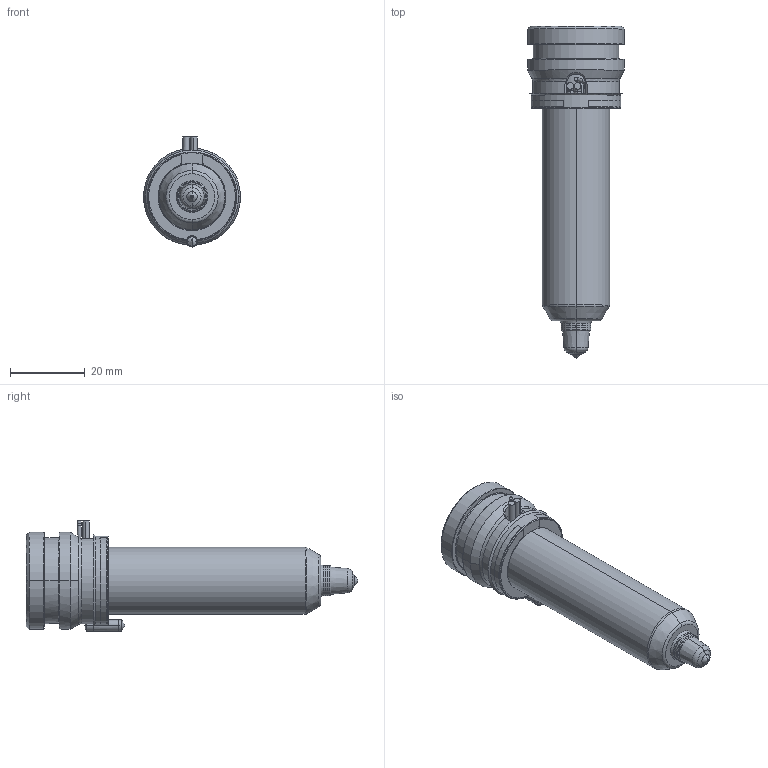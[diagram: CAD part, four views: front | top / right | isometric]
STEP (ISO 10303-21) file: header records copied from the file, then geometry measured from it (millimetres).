
FILE_DESCRIPTION((''),'2;1');
FILE_NAME('TH18071-A-1B50-PK-JG','2023-12-14T',('umhib'),('Thermoplay S.p.A.'),'PRO/ENGINEER BY PARAMETRIC TECHNOLOGY CORPORATION, 2017170','PRO/ENGINEER BY PARAMETRIC TECHNOLOGY CORPORATION, 2017170','');
FILE_SCHEMA(('CONFIG_CONTROL_DESIGN'));
Length unit declared in the file: millimetre
Products named in the file (1): TH18071-A-1B50-PK-JG
Bounding box: 26 x 89 x 29.5 mm (x, y, z)
Volume: 18747 mm3; surface area: 13764.2 mm2
Topology: 1 solids, 2 shells, 394 faces, 1026 edges, 637 vertices
Faces by surface type: cylinder 151, plane 85, cone 66, torus 54, bspline 24, sphere 12, extrusion 2
Entity records: 18002 total; most frequent: CARTESIAN_POINT 6179, ORIENTED_EDGE 2028, DIRECTION 2015, EDGE_CURVE 1016, AXIS2_PLACEMENT_3D 808, VERTEX_POINT 637, CIRCLE 439, EDGE_LOOP 414
